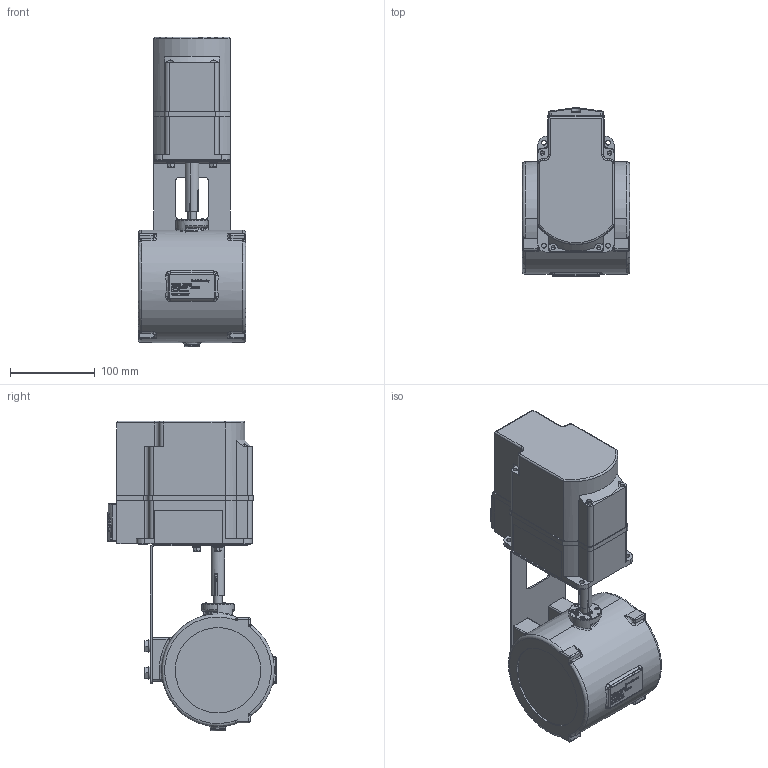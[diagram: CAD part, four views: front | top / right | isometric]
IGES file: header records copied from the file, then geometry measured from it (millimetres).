
Global section: file name: No Iges File Name specified; native system: AutoDesk Inventor R12.0; preprocessor: AutoDesk Inventor Iges Exporter R12.0; date: 20110328.100643; units: millimetre
Bounding box: 127 x 199.55 x 366 mm (x, y, z)
Volume: 3598309.3 mm3; surface area: 293869.8 mm2
Topology: 1 solids, 14 shells, 2938 faces, 7881 edges, 5129 vertices
Faces by surface type: plane 1522, bspline 1023, cylinder 184, revolution 101, cone 67, torus 31, sphere 10
Full cylindrical faces by diameter (mm): 9.2 x3, 14.8 x4
